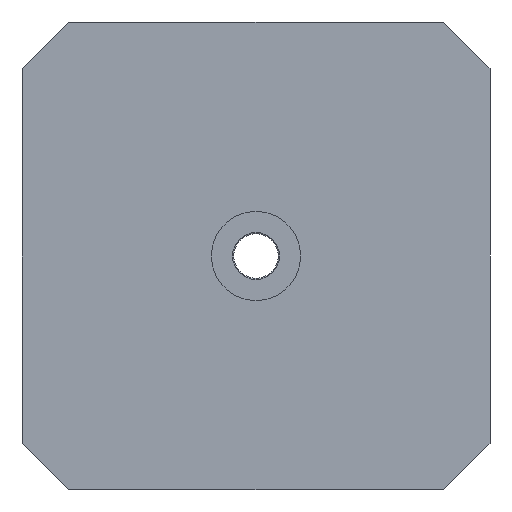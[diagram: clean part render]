
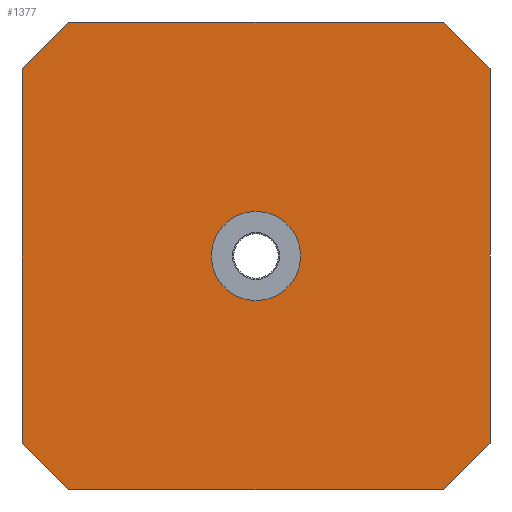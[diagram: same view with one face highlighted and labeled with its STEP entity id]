
A CAD part, front view. The second image highlights one B-rep face of the part: STEP entity #1377.
In plain terms, the highlighted planar face has unit normal (0, -1, 0).
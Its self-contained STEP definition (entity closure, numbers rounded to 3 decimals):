
#3 = LINE ( 'NONE', #1124, #298 ) ;
#23 = EDGE_CURVE ( 'NONE', #800, #1392, #1385, .T. ) ;
#68 = CARTESIAN_POINT ( 'NONE',  ( 42., -74., 0. ) ) ;
#78 = DIRECTION ( 'NONE',  ( 0., -1., 0. ) ) ;
#85 = EDGE_LOOP ( 'NONE', ( #443, #755, #1518, #1514, #695, #393, #388, #87 ) ) ;
#87 = ORIENTED_EDGE ( 'NONE', *, *, #1337, .F. ) ;
#111 = DIRECTION ( 'NONE',  ( 0.707, 0., 0.707 ) ) ;
#135 = CARTESIAN_POINT ( 'NONE',  ( 21., -74., -21. ) ) ;
#137 = FACE_OUTER_BOUND ( 'NONE', #85, .T. ) ;
#195 = DIRECTION ( 'NONE',  ( 0.707, 0., -0.707 ) ) ;
#210 = ORIENTED_EDGE ( 'NONE', *, *, #239, .F. ) ;
#216 = VECTOR ( 'NONE', #729, 1000. ) ;
#239 = EDGE_CURVE ( 'NONE', #551, #1639, #886, .T. ) ;
#276 = DIRECTION ( 'NONE',  ( 0., 0., -1. ) ) ;
#288 = AXIS2_PLACEMENT_3D ( 'NONE', #135, #1068, #276 ) ;
#298 = VECTOR ( 'NONE', #195, 1000. ) ;
#339 = VECTOR ( 'NONE', #590, 1000. ) ;
#340 = CARTESIAN_POINT ( 'NONE',  ( 0., -74., -4.2 ) ) ;
#388 = ORIENTED_EDGE ( 'NONE', *, *, #951, .T. ) ;
#393 = ORIENTED_EDGE ( 'NONE', *, *, #1079, .F. ) ;
#418 = CARTESIAN_POINT ( 'NONE',  ( 4.2, -74., 0. ) ) ;
#419 = DIRECTION ( 'NONE',  ( 0., -1., 0. ) ) ;
#438 = CARTESIAN_POINT ( 'NONE',  ( 0., -74., -4.2 ) ) ;
#443 = ORIENTED_EDGE ( 'NONE', *, *, #1447, .T. ) ;
#453 = DIRECTION ( 'NONE',  ( 0., 0., 1. ) ) ;
#459 = DIRECTION ( 'NONE',  ( -0.707, 0., 0.707 ) ) ;
#507 = CARTESIAN_POINT ( 'NONE',  ( 42., -74., -4.2 ) ) ;
#551 = VERTEX_POINT ( 'NONE', #897 ) ;
#589 = AXIS2_PLACEMENT_3D ( 'NONE', #1224, #419, #1353 ) ;
#590 = DIRECTION ( 'NONE',  ( 1., 0., 0. ) ) ;
#695 = ORIENTED_EDGE ( 'NONE', *, *, #23, .T. ) ;
#729 = DIRECTION ( 'NONE',  ( -1., 0., 0. ) ) ;
#755 = ORIENTED_EDGE ( 'NONE', *, *, #1142, .F. ) ;
#775 = AXIS2_PLACEMENT_3D ( 'NONE', #1402, #78, #1000 ) ;
#800 = VERTEX_POINT ( 'NONE', #418 ) ;
#812 = LINE ( 'NONE', #1248, #339 ) ;
#863 = CIRCLE ( 'NONE', #288, 4. ) ;
#870 = PLANE ( 'NONE',  #775 ) ;
#886 = CIRCLE ( 'NONE', #589, 4. ) ;
#897 = CARTESIAN_POINT ( 'NONE',  ( 21., -74., -17. ) ) ;
#907 = CARTESIAN_POINT ( 'NONE',  ( 21., -74., -25. ) ) ;
#927 = VECTOR ( 'NONE', #459, 1000. ) ;
#951 = EDGE_CURVE ( 'NONE', #1566, #1146, #3, .T. ) ;
#960 = LINE ( 'NONE', #1122, #927 ) ;
#983 = VECTOR ( 'NONE', #1396, 1000. ) ;
#1000 = DIRECTION ( 'NONE',  ( 0., 0., -1. ) ) ;
#1031 = VECTOR ( 'NONE', #453, 1000. ) ;
#1038 = CARTESIAN_POINT ( 'NONE',  ( 37.8, -74., -42. ) ) ;
#1054 = VERTEX_POINT ( 'NONE', #1152 ) ;
#1068 = DIRECTION ( 'NONE',  ( 0., -1., 0. ) ) ;
#1079 = EDGE_CURVE ( 'NONE', #1566, #1392, #1384, .T. ) ;
#1109 = VECTOR ( 'NONE', #111, 1000. ) ;
#1122 = CARTESIAN_POINT ( 'NONE',  ( 37.8, -74., 0. ) ) ;
#1124 = CARTESIAN_POINT ( 'NONE',  ( 4.2, -74., -42. ) ) ;
#1142 = EDGE_CURVE ( 'NONE', #1610, #1212, #1303, .T. ) ;
#1146 = VERTEX_POINT ( 'NONE', #1536 ) ;
#1152 = CARTESIAN_POINT ( 'NONE',  ( 37.8, -74., -42. ) ) ;
#1200 = FACE_BOUND ( 'NONE', #1347, .T. ) ;
#1212 = VERTEX_POINT ( 'NONE', #1408 ) ;
#1224 = CARTESIAN_POINT ( 'NONE',  ( 21., -74., -21. ) ) ;
#1248 = CARTESIAN_POINT ( 'NONE',  ( 0., -74., 0. ) ) ;
#1252 = CARTESIAN_POINT ( 'NONE',  ( 0., -74., 0. ) ) ;
#1261 = EDGE_CURVE ( 'NONE', #800, #1426, #812, .T. ) ;
#1281 = LINE ( 'NONE', #1393, #216 ) ;
#1290 = ORIENTED_EDGE ( 'NONE', *, *, #1549, .F. ) ;
#1303 = LINE ( 'NONE', #68, #983 ) ;
#1318 = EDGE_CURVE ( 'NONE', #1610, #1426, #960, .T. ) ;
#1337 = EDGE_CURVE ( 'NONE', #1054, #1146, #1281, .T. ) ;
#1347 = EDGE_LOOP ( 'NONE', ( #210, #1290 ) ) ;
#1353 = DIRECTION ( 'NONE',  ( 0., 0., -1. ) ) ;
#1376 = DIRECTION ( 'NONE',  ( -0.707, 0., -0.707 ) ) ;
#1377 = ADVANCED_FACE ( 'NONE', ( #137, #1200 ), #870, .T. ) ;
#1384 = LINE ( 'NONE', #1252, #1031 ) ;
#1385 = LINE ( 'NONE', #438, #1433 ) ;
#1392 = VERTEX_POINT ( 'NONE', #340 ) ;
#1393 = CARTESIAN_POINT ( 'NONE',  ( 0., -74., -42. ) ) ;
#1396 = DIRECTION ( 'NONE',  ( 0., 0., -1. ) ) ;
#1402 = CARTESIAN_POINT ( 'NONE',  ( 0., -74., 0. ) ) ;
#1408 = CARTESIAN_POINT ( 'NONE',  ( 42., -74., -37.8 ) ) ;
#1426 = VERTEX_POINT ( 'NONE', #1443 ) ;
#1433 = VECTOR ( 'NONE', #1376, 1000. ) ;
#1443 = CARTESIAN_POINT ( 'NONE',  ( 37.8, -74., 0. ) ) ;
#1447 = EDGE_CURVE ( 'NONE', #1054, #1212, #1477, .T. ) ;
#1477 = LINE ( 'NONE', #1038, #1109 ) ;
#1514 = ORIENTED_EDGE ( 'NONE', *, *, #1261, .F. ) ;
#1518 = ORIENTED_EDGE ( 'NONE', *, *, #1318, .T. ) ;
#1536 = CARTESIAN_POINT ( 'NONE',  ( 4.2, -74., -42. ) ) ;
#1549 = EDGE_CURVE ( 'NONE', #1639, #551, #863, .T. ) ;
#1566 = VERTEX_POINT ( 'NONE', #1604 ) ;
#1604 = CARTESIAN_POINT ( 'NONE',  ( 0., -74., -37.8 ) ) ;
#1610 = VERTEX_POINT ( 'NONE', #507 ) ;
#1639 = VERTEX_POINT ( 'NONE', #907 ) ;
